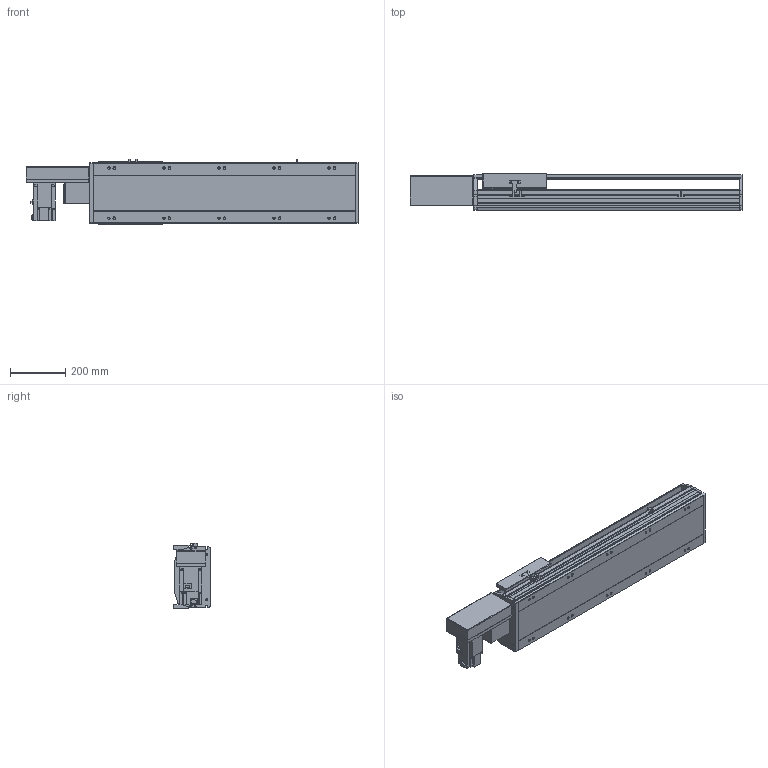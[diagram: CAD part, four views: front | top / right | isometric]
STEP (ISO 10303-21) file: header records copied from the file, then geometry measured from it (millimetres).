
FILE_DESCRIPTION(/* description */ ('STEP AP214'),/* implementation_level */ '2;1');
FILE_NAME(/* name */ 'PBS220-P40-S600-R-T75-C1-N(0)',/* time_stamp */ '2022-06-11T10:00:02+02:00',/* author */ ('License CC BY-ND 4.0'),/* organization */ ('CADENAS'),/* preprocessor_version */ 'ST-DEVELOPER v18.102',/* originating_system */ 'PARTsolutions',/* authorisation */ ' ');
FILE_SCHEMA (('AUTOMOTIVE_DESIGN {1 0 10303 214 3 1 1}'));
Length unit declared in the file: millimetre
Products named in the file (7): PBS220-P40-S600-R-T75-C1-N(0); PBS220_sensor; PBS220_plant; PBS220_sliser; T75-p1; PBS220T-R_motors; PBS220-S600()_body
Assembly tree (8 placements, depth 2):
  PBS220-P40-S600-R-T75-C1-N(0)
    PBS220_sensor  x3
    PBS220_plant
    PBS220_sliser
    T75-p1
    PBS220T-R_motors
    PBS220-S600()_body
Bounding box: 1206 x 134 x 238.5 mm (x, y, z)
Volume: 16075578.1 mm3; surface area: 1640241.3 mm2
Topology: 8 solids, 8 shells, 878 faces, 2312 edges, 1504 vertices
Faces by surface type: plane 586, cylinder 258, cone 34
Full cylindrical faces by diameter (mm): 2.013 x4, 4.5 x14, 4.917 x4, 6 x7, 6.647 x8, 8 x10, 8.376 x10, 8.5 x10, 10 x6, 14 x10, 38 x2, 40 x1, 70 x1
Entity records: 24693 total; most frequent: CARTESIAN_POINT 4294, DIRECTION 4293, ORIENTED_EDGE 3998, EDGE_CURVE 1999, AXIS2_PLACEMENT_3D 1477, VERTEX_POINT 1368, LINE 1339, VECTOR 1339
